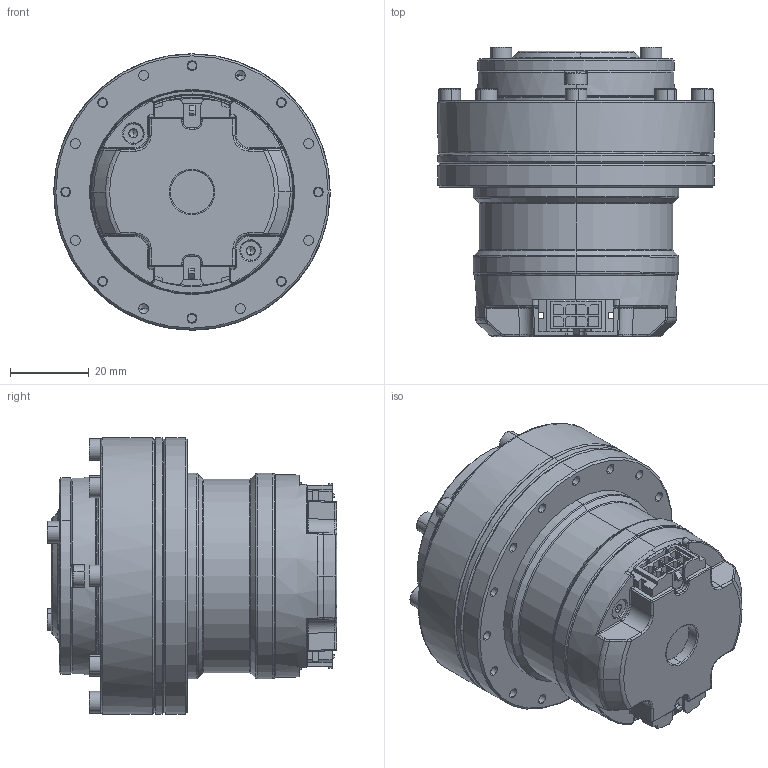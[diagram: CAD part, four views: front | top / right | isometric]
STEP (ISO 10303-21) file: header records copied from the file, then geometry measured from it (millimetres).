
FILE_DESCRIPTION (( 'STEP AP214' ), '1' );
FILE_NAME ('QddPro_3510_51.STEP', '2019-04-24T03:03:08', ( 'Microsoft' ), ( 'Microsoft' ), 'SwSTEP 2.0', 'SolidWorks 2018', '' );
FILE_SCHEMA (( 'AUTOMOTIVE_DESIGN' ));
Length unit declared in the file: millimetre
Products named in the file (1): QddPro_3510_51
Bounding box: 70 x 73.4 x 70 mm (x, y, z)
Volume: 130433 mm3; surface area: 85217.6 mm2
Topology: 119 solids, 119 shells, 2599 faces, 6111 edges, 3782 vertices
Faces by surface type: plane 1361, cylinder 601, cone 388, bspline 152, torus 92, sphere 5
Entity records: 115167 total; most frequent: CARTESIAN_POINT 28309, ORIENTED_EDGE 12098, DIRECTION 10909, EDGE_CURVE 6049, VERTEX_POINT 3782, VECTOR 3655, LINE 3655, AXIS2_PLACEMENT_3D 3627
